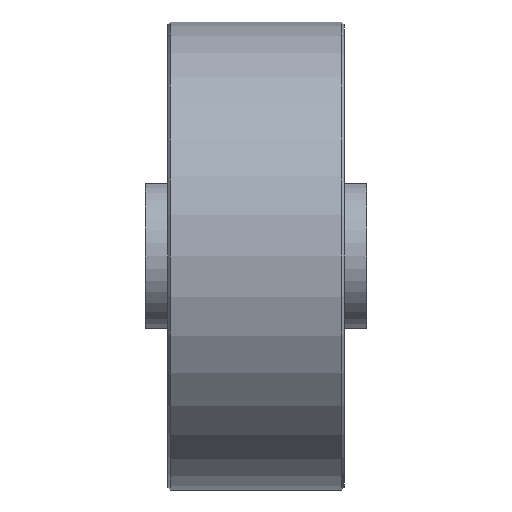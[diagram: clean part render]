
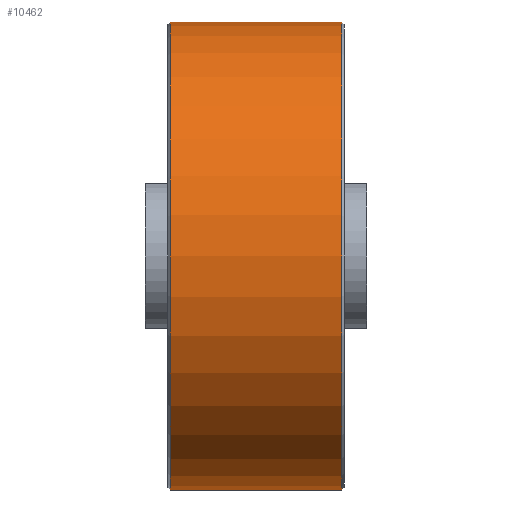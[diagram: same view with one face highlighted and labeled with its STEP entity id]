
A CAD part, front view. The second image highlights one B-rep face of the part: STEP entity #10462.
In plain terms, the highlighted cylindrical face has radius 19 mm (diameter 38 mm), a partial arc.
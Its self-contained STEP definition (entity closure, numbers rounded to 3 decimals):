
#912 = DIRECTION ( 'NONE',  ( 0., 0., 1. ) ) ;
#956 = CARTESIAN_POINT ( 'NONE',  ( -7.15, 0., -19. ) ) ;
#1070 = CARTESIAN_POINT ( 'NONE',  ( -7.15, 0., 0. ) ) ;
#2044 = VERTEX_POINT ( 'NONE', #4662 ) ;
#2081 = CARTESIAN_POINT ( 'NONE',  ( 6.95, 0., 0. ) ) ;
#2421 = CIRCLE ( 'NONE', #6288, 19. ) ;
#2440 = AXIS2_PLACEMENT_3D ( 'NONE', #1070, #10234, #912 ) ;
#2602 = DIRECTION ( 'NONE',  ( 1., 0., 0. ) ) ;
#3366 = CARTESIAN_POINT ( 'NONE',  ( -6.95, 0., 0. ) ) ;
#3956 = VERTEX_POINT ( 'NONE', #7158 ) ;
#4357 = EDGE_CURVE ( 'NONE', #8766, #2044, #7226, .T. ) ;
#4389 = FACE_OUTER_BOUND ( 'NONE', #7162, .T. ) ;
#4662 = CARTESIAN_POINT ( 'NONE',  ( 6.95, 0., 19. ) ) ;
#4771 = EDGE_CURVE ( 'NONE', #2044, #3956, #10883, .T. ) ;
#5548 = DIRECTION ( 'NONE',  ( 0., 0., 1. ) ) ;
#5550 = DIRECTION ( 'NONE',  ( -1., 0., 0. ) ) ;
#5700 = EDGE_CURVE ( 'NONE', #3956, #8212, #2421, .T. ) ;
#5712 = ORIENTED_EDGE ( 'NONE', *, *, #10175, .F. ) ;
#6288 = AXIS2_PLACEMENT_3D ( 'NONE', #3366, #2602, #13942 ) ;
#6667 = DIRECTION ( 'NONE',  ( -1., 0., 0. ) ) ;
#7158 = CARTESIAN_POINT ( 'NONE',  ( -6.95, 0., 19. ) ) ;
#7162 = EDGE_LOOP ( 'NONE', ( #5712, #13296, #9763, #11718 ) ) ;
#7226 = CIRCLE ( 'NONE', #7933, 19. ) ;
#7244 = VECTOR ( 'NONE', #5550, 1000. ) ;
#7933 = AXIS2_PLACEMENT_3D ( 'NONE', #2081, #6667, #5548 ) ;
#8212 = VERTEX_POINT ( 'NONE', #11271 ) ;
#8766 = VERTEX_POINT ( 'NONE', #11687 ) ;
#9763 = ORIENTED_EDGE ( 'NONE', *, *, #4771, .T. ) ;
#10175 = EDGE_CURVE ( 'NONE', #8766, #8212, #11255, .T. ) ;
#10234 = DIRECTION ( 'NONE',  ( -1., 0., 0. ) ) ;
#10462 = ADVANCED_FACE ( 'NONE', ( #4389 ), #11510, .T. ) ;
#10801 = CARTESIAN_POINT ( 'NONE',  ( -7.15, 0., 19. ) ) ;
#10883 = LINE ( 'NONE', #10801, #11073 ) ;
#11073 = VECTOR ( 'NONE', #14304, 1000. ) ;
#11255 = LINE ( 'NONE', #956, #7244 ) ;
#11271 = CARTESIAN_POINT ( 'NONE',  ( -6.95, 0., -19. ) ) ;
#11510 = CYLINDRICAL_SURFACE ( 'NONE', #2440, 19. ) ;
#11687 = CARTESIAN_POINT ( 'NONE',  ( 6.95, 0., -19. ) ) ;
#11718 = ORIENTED_EDGE ( 'NONE', *, *, #5700, .T. ) ;
#13296 = ORIENTED_EDGE ( 'NONE', *, *, #4357, .T. ) ;
#13942 = DIRECTION ( 'NONE',  ( 0., 0., -1. ) ) ;
#14304 = DIRECTION ( 'NONE',  ( -1., 0., 0. ) ) ;
